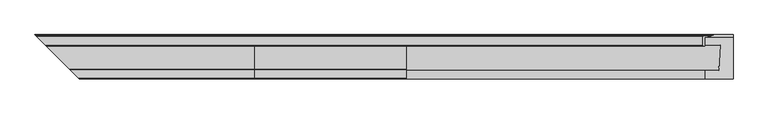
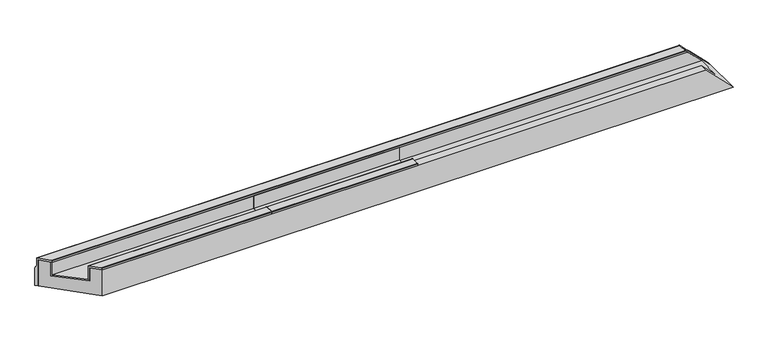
"""IFC4 building model written with IfcOpenShell, lengths in millimetres: proxy geometry, Weiku - Montante - Caixilho duplo 02.2.01.002 de canto : Weiku - Montante - Caixilho duplo 02.2.01.002 de canto."""

from ifc_helpers import new_model, si_unit, point, frame, frame_2d, origin, place, context, project, spatial, polyline, circle_curve, ellipse_curve, trimmed, segment, composite_curve, outline, extrude, faceted_brep, source, transform, mapped, element, save
from ifc_brep_helpers import plane_surface, cylinder_surface, revolved_surface, advanced_brep


def generic_models_76f841bb(model_context):
    return source(origin(), model_context, "Body", "SolidModel", [
        extrude(outline(composite_curve([segment(polyline([(15.0, 52.0), (0.0, 52.0), (0.0, 55.0)]), True, "CONTINUOUS"), segment(trimmed(circle_curve(frame_2d((1.0, 55.0)), 1.0), [point((0.0, 55.0))], [point((1.0, 56.0))], False, "CARTESIAN"), True, "CONTINUOUS"), segment(polyline([(1.0, 56.0), (16.0, 56.0)]), True, "CONTINUOUS"), segment(trimmed(circle_curve(frame_2d((16.0, 55.0)), 1.0), [point((16.0, 56.0))], [point((17.0, 55.0))], False, "CARTESIAN"), True, "CONTINUOUS"), segment(polyline([(17.0, 55.0), (17.0, 28.908759), (60.0, 26.8749739), (60.0, 52.0), (62.0, 52.0), (62.0, 23.7770256), (15.0, 26.0), (15.0, 52.0)]), True, "CONTINUOUS")], self_intersect=False)), frame((-276.75, 0.0, 0.0), z_axis=(1.0, 0.0, 0.0), x_axis=(0.0, 1.0, 0.0)), (0.0, 0.0, 1.0), 276.75),
        advanced_brep(
        [(546.5, 60.0, 52.0), (543.5, 60.0, 55.0), (-658.5, 60.0, 55.0), (-658.5, 60.0, 52.0), (542.5, 61.0, 56.0), (-659.5, 61.0, 56.0), (542.5, 78.0, 56.0), (-676.5, 78.0, 56.0), (543.5, 79.0, 55.0), (-677.5, 79.0, 55.0), (557.5, 79.0, 41.0), (-677.5, 79.0, 41.0), (560.5, 80.0, 38.0), (-678.5, 80.0, 38.0), (563.5, 81.0, 35.0), (-679.5, 81.0, 35.0), (598.5, 81.0, 0.0), (-679.5, 81.0, 0.0), (598.5, 77.0, 0.0), (-675.5, 77.0, 0.0), (546.5, 77.0, 52.0), (-675.5, 77.0, 52.0)],
        [
            (0, 1),
            (1, 2),
            (2, 3),
            (3, 0),
            (1, 4, ellipse_curve(frame((543.5, 61.0, 55.0), z_axis=(-0.7071067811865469, 0.0, -0.7071067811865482), x_axis=(-0.707106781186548, 0.0, 0.7071067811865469)), 1.4142136, 1.0)),
            (4, 5),
            (5, 2, ellipse_curve(frame((-659.5, 61.0, 55.0), z_axis=(0.707106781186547, 0.707106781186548, 0.0), x_axis=(-0.7071067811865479, 0.707106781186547, 0.0)), 1.4142136, 1.0)),
            (4, 6),
            (6, 7),
            (7, 5),
            (6, 8, ellipse_curve(frame((543.5, 78.0, 55.0), z_axis=(-0.7071067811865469, 0.0, -0.7071067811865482), x_axis=(-0.707106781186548, 0.0, 0.7071067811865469)), 1.4142136, 1.0)),
            (8, 9),
            (9, 7, ellipse_curve(frame((-676.5, 78.0, 55.0), z_axis=(0.707106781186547, 0.707106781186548, 0.0), x_axis=(-0.7071067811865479, 0.707106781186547, 0.0)), 1.4142136, 1.0)),
            (8, 10),
            (10, 11),
            (11, 9),
            (10, 12, ellipse_curve(frame((557.5, 84.0, 41.0), z_axis=(0.7071067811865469, 0.0, 0.7071067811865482), x_axis=(0.707106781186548, 0.0, -0.7071067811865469)), 7.0710678, 5.0)),
            (12, 13),
            (13, 11, ellipse_curve(frame((-682.5, 84.0, 41.0), z_axis=(-0.707106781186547, -0.707106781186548, 0.0), x_axis=(0.7071067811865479, -0.707106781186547, 0.0)), 7.0710678, 5.0)),
            (12, 14, ellipse_curve(frame((563.5, 76.0, 35.0), z_axis=(-0.7071067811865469, 0.0, -0.7071067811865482), x_axis=(-0.707106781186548, 0.0, 0.7071067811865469)), 7.0710678, 5.0)),
            (14, 15),
            (15, 13, ellipse_curve(frame((-674.5, 76.0, 35.0), z_axis=(0.707106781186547, 0.707106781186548, 0.0), x_axis=(-0.7071067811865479, 0.707106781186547, 0.0)), 7.0710678, 5.0)),
            (14, 16),
            (16, 17),
            (17, 15),
            (16, 18),
            (18, 19),
            (19, 17),
            (18, 20),
            (20, 21),
            (21, 19),
            (20, 0),
            (3, 21),
        ],
        [
            plane_surface(frame((-688.5, 60.0, 52.0), z_axis=(0.0, -1.0, 0.0), x_axis=(1.0, 0.0, 0.0))),
            cylinder_surface(frame((-688.5, 61.0, 55.0), z_axis=(-1.0, 0.0, 0.0), x_axis=(0.0, 1.0, 0.0)), 1.0),
            plane_surface(frame((-688.5, 61.0, 56.0), z_axis=(0.0, 0.0, 1.0), x_axis=(1.0, 0.0, 0.0))),
            cylinder_surface(frame((-688.5, 78.0, 55.0), z_axis=(-1.0, 0.0, 0.0), x_axis=(0.0, 1.0, 0.0)), 1.0),
            plane_surface(frame((-688.5, 79.0, 55.0), z_axis=(0.0, 1.0, 0.0), x_axis=(1.0, 0.0, 0.0))),
            revolved_surface(polyline([(562.4999999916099, 89.0, 41.0), (-687.4999999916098, 89.0, 41.0)]), (-688.5, 84.0, 41.0), (1.0, 0.0, 0.0)),
            cylinder_surface(frame((-688.5, 76.0, 35.0), z_axis=(-1.0, 0.0, 0.0), x_axis=(0.0, 1.0, 0.0)), 5.0),
            plane_surface(frame((-688.5, 81.0, 35.0), z_axis=(0.0, 1.0, 0.0), x_axis=(1.0, 0.0, 0.0))),
            plane_surface(frame((-688.5, 81.0, 0.0), z_axis=(0.0, 0.0, -1.0), x_axis=(1.0, 0.0, 0.0))),
            plane_surface(frame((-688.5, 77.0, 0.0), z_axis=(0.0, -1.0, 0.0), x_axis=(1.0, 0.0, 0.0))),
            plane_surface(frame((-688.5, 77.0, 52.0), z_axis=(0.0, 0.0, -1.0), x_axis=(1.0, 0.0, 0.0))),
            plane_surface(frame((-598.5, 0.0, 70.0), z_axis=(-0.707106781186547, -0.707106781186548, 0.0), x_axis=(0.0, 0.0, -1.0))),
            plane_surface(frame((528.5, 0.0, 70.0), z_axis=(0.7071067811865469, 0.0, 0.7071067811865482), x_axis=(0.0, 1.0, 0.0))),
        ],
        [
            (0, [[1, 2, 3, 4]]),
            (1, [[5, 6, 7, -2]]),
            (2, [[8, 9, 10, -6]]),
            (3, [[11, 12, 13, -9]]),
            (4, [[14, 15, 16, -12]]),
            (5, [[17, 18, 19, -15]]),
            (6, [[20, 21, 22, -18]]),
            (7, [[23, 24, 25, -21]]),
            (8, [[26, 27, 28, -24]]),
            (9, [[29, 30, 31, -27]]),
            (10, [[32, -4, 33, -30]]),
            (11, [[-3, -7, -10, -13, -16, -19, -22, -25, -28, -31, -33]]),
            (12, [[-1, -32, -29, -26, -23, -20, -17, -14, -11, -8, -5]]),
        ],
    ),
        advanced_brep(
        [(-276.75, 15.0, 52.0), (-276.75, 15.0, 26.0), (-276.75, 62.0, 23.7770256), (-276.75, 62.0, 52.0), (-276.75, 60.0, 52.0), (-276.75, 60.0, 26.8749739), (-276.75, 17.0, 28.908759), (-276.75, 17.0, 55.0), (-276.75, 16.0, 56.0), (-276.75, 1.0, 56.0), (-276.75, 0.0, 55.0), (-276.75, 0.0, 52.0), (-660.5, 62.0, 52.0), (-658.5, 60.0, 52.0), (-660.5, 62.0, 23.7770256), (-598.5, 0.0, 52.0), (-613.5, 15.0, 52.0), (-598.5, 0.0, 55.0), (-599.5, 1.0, 56.0), (-614.5, 16.0, 56.0), (-615.5, 17.0, 55.0), (-615.5, 17.0, 28.908759), (-658.5, 60.0, 26.8749739), (-613.5, 15.0, 26.0)],
        [
            (0, 1),
            (1, 2),
            (2, 3),
            (3, 4),
            (4, 5),
            (5, 6),
            (6, 7),
            (7, 8, circle_curve(frame((-276.75, 16.0, 55.0), z_axis=(1.0, 0.0, 0.0), x_axis=(0.0, 1.0, 0.0)), 1.0)),
            (8, 9),
            (9, 10, circle_curve(frame((-276.75, 1.0, 55.0), z_axis=(1.0, 0.0, 0.0), x_axis=(0.0, 1.0, 0.0)), 1.0)),
            (10, 11),
            (11, 0),
            (3, 12),
            (12, 13),
            (13, 4),
            (2, 14),
            (14, 12),
            (11, 15),
            (15, 16),
            (16, 0),
            (10, 17),
            (17, 15),
            (9, 18),
            (18, 17, ellipse_curve(frame((-599.5, 1.0, 55.0), z_axis=(0.707106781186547, 0.707106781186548, 0.0), x_axis=(-0.7071067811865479, 0.707106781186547, 0.0)), 1.4142136, 1.0)),
            (8, 19),
            (19, 18),
            (7, 20),
            (20, 19, ellipse_curve(frame((-614.5, 16.0, 55.0), z_axis=(0.707106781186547, 0.707106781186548, 0.0), x_axis=(-0.7071067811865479, 0.707106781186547, 0.0)), 1.4142136, 1.0)),
            (6, 21),
            (21, 20),
            (5, 22),
            (22, 21),
            (13, 22),
            (1, 23),
            (23, 14),
            (16, 23),
        ],
        [
            plane_surface(frame((-276.75, 0.0, 0.0), z_axis=(1.0, 0.0, 0.0), x_axis=(0.0, 0.0, 1.0))),
            plane_surface(frame((-688.5, 60.0, 52.0), z_axis=(0.0, 0.0, 1.0), x_axis=(1.0, 0.0, 0.0))),
            plane_surface(frame((-688.5, 62.0, 52.0), z_axis=(0.0, 1.0, 0.0), x_axis=(1.0, 0.0, 0.0))),
            plane_surface(frame((-688.5, 15.0, 52.0), z_axis=(0.0, 0.0, -1.0), x_axis=(1.0, 0.0, 0.0))),
            plane_surface(frame((-688.5, 0.0, 52.0), z_axis=(0.0, -1.0, 0.0), x_axis=(1.0, 0.0, 0.0))),
            cylinder_surface(frame((-688.5, 1.0, 55.0), z_axis=(-1.0, 0.0, 0.0), x_axis=(0.0, 1.0, 0.0)), 1.0),
            plane_surface(frame((-688.5, 1.0, 56.0), z_axis=(0.0, 0.0, 1.0), x_axis=(1.0, 0.0, 0.0))),
            cylinder_surface(frame((-688.5, 16.0, 55.0), z_axis=(-1.0, 0.0, 0.0), x_axis=(0.0, 1.0, 0.0)), 1.0),
            plane_surface(frame((-688.5, 17.0, 55.0), z_axis=(0.0, 1.0, 0.0), x_axis=(1.0, 0.0, 0.0))),
            plane_surface(frame((-688.5, 17.0, 28.908759), z_axis=(0.0, 0.0472445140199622, 0.9988833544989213), x_axis=(1.0, 0.0, 0.0))),
            plane_surface(frame((-688.5, 60.0, 26.8749739), z_axis=(0.0, -1.0, 0.0), x_axis=(1.0, 0.0, 0.0))),
            plane_surface(frame((-688.5, 62.0, 23.7770256), z_axis=(0.0, -0.047244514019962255, -0.9988833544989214), x_axis=(1.0, 0.0, 0.0))),
            plane_surface(frame((-688.5, 15.0, 26.0), z_axis=(0.0, -1.0, 0.0), x_axis=(1.0, 0.0, 0.0))),
            plane_surface(frame((-598.5, 0.0, 70.0), z_axis=(-0.707106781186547, -0.707106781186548, 0.0), x_axis=(0.0, 0.0, -1.0))),
        ],
        [
            (0, [[1, 2, 3, 4, 5, 6, 7, 8, 9, 10, 11, 12]]),
            (1, [[-4, 13, 14, 15]]),
            (2, [[-3, 16, 17, -13]]),
            (3, [[-12, 18, 19, 20]]),
            (4, [[-11, 21, 22, -18]]),
            (5, [[-10, 23, 24, -21]]),
            (6, [[-9, 25, 26, -23]]),
            (7, [[-8, 27, 28, -25]]),
            (8, [[-7, 29, 30, -27]]),
            (9, [[-6, 31, 32, -29]]),
            (10, [[-5, -15, 33, -31]]),
            (11, [[-2, 34, 35, -16]]),
            (12, [[-1, -20, 36, -34]]),
            (13, [[-14, -17, -35, -36, -19, -22, -24, -26, -28, -30, -32, -33]]),
        ],
    ),
        faceted_brep([(546.5, 15.0, 52.0), (572.5, 15.0, 26.0), (-613.5, 15.0, 26.0), (-613.5, 15.0, 52.0), (574.7229744, 62.0, 23.7770256), (-660.5, 62.0, 23.7770256), (546.5, 62.0, 52.0), (-660.5, 62.0, 52.0), (546.5, 77.0, 52.0), (-675.5, 77.0, 52.0), (598.5, 77.0, 0.0), (-675.5, 77.0, 0.0), (598.5, 0.0, 0.0), (-598.5, 0.0, 0.0), (546.5, 0.0, 52.0), (-598.5, 0.0, 52.0)], [[[0, 1, 2, 3]], [[1, 4, 5, 2]], [[4, 6, 7, 5]], [[6, 8, 9, 7]], [[8, 10, 11, 9]], [[10, 12, 13, 11]], [[12, 14, 15, 13]], [[14, 0, 3, 15]], [[3, 2, 5, 7, 9, 11, 13, 15]], [[1, 0, 14, 12, 10, 8, 6, 4]]]),
    ])


if __name__ == "__main__":
    model = new_model("IFC4")
    model_context = context("Model", 3, world=origin())
    ifc_project = project(units=[si_unit("LENGTHUNIT", "METRE", prefix="MILLI")], contexts=[model_context])
    site = spatial("IfcSite", under=ifc_project)
    building = spatial("IfcBuilding", under=site)
    placement = place(None, origin())
    generic_models_shape = generic_models_76f841bb(model_context)
    element("IfcBuildingElementProxy", 1, Name="Weiku - Montante - Caixilho duplo 02.2.01.002 de canto : Weiku - Montante - Caixilho duplo 02.2.01.002 de canto", ObjectType="Weiku - Montante - Caixilho duplo 02.2.01.002 de canto : Weiku - Montante - Caixilho duplo 02.2.01.002 de canto", at=placement, inside=building, context=model_context, shape_type="MappedRepresentation", body=[
        mapped(generic_models_shape, transform((0.0, 0.0, 0.0), x_axis=(1.0, 0.0, 0.0), y_axis=(0.0, 1.0, 0.0), z_axis=(0.0, 0.0, 1.0))),
    ])
    save(model, "model.ifc")
